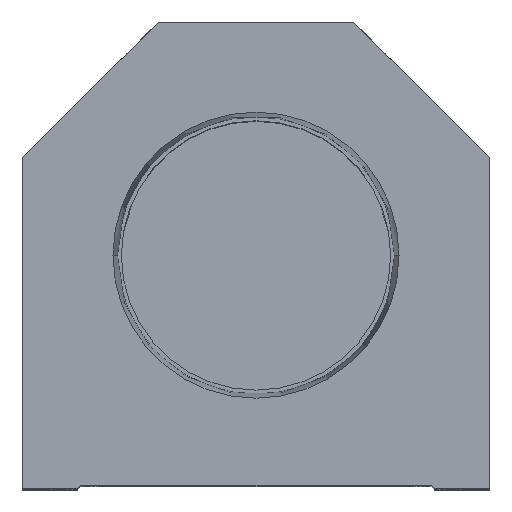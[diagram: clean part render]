
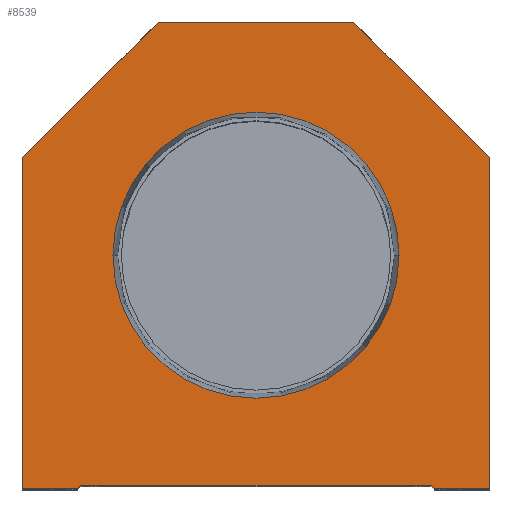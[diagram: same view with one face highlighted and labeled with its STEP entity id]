
A CAD part, top view. The second image highlights one B-rep face of the part: STEP entity #8539.
In plain terms, the highlighted planar face has unit normal (0, 0, 1).
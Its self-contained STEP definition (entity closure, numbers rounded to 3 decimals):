
#105 = CARTESIAN_POINT ( 'NONE',  ( 38.1, 54.1, 0. ) ) ;
#286 = LINE ( 'NONE', #19219, #20315 ) ;
#290 = LINE ( 'NONE', #3547, #4134 ) ;
#910 = VERTEX_POINT ( 'NONE', #10446 ) ;
#1490 = AXIS2_PLACEMENT_3D ( 'NONE', #6778, #14368, #3590 ) ;
#1512 = LINE ( 'NONE', #7694, #13969 ) ;
#1563 = DIRECTION ( 'NONE',  ( 1., 0., 0. ) ) ;
#1658 = VERTEX_POINT ( 'NONE', #16843 ) ;
#1663 = EDGE_CURVE ( 'NONE', #9354, #2318, #11237, .T. ) ;
#1797 = CARTESIAN_POINT ( 'NONE',  ( 16., 76.2, 0. ) ) ;
#1896 = DIRECTION ( 'NONE',  ( -1., 0., 0. ) ) ;
#1946 = CARTESIAN_POINT ( 'NONE',  ( -28.6, 0., 0. ) ) ;
#1997 = EDGE_CURVE ( 'NONE', #7896, #16456, #10984, .T. ) ;
#2183 = CARTESIAN_POINT ( 'NONE',  ( -38.1, 54.1, 0. ) ) ;
#2238 = VECTOR ( 'NONE', #15986, 1000. ) ;
#2318 = VERTEX_POINT ( 'NONE', #9732 ) ;
#2497 = VERTEX_POINT ( 'NONE', #14657 ) ;
#2987 = CARTESIAN_POINT ( 'NONE',  ( 0., 38.1, 0. ) ) ;
#3371 = EDGE_CURVE ( 'NONE', #5521, #6860, #15912, .T. ) ;
#3463 = LINE ( 'NONE', #105, #6415 ) ;
#3547 = CARTESIAN_POINT ( 'NONE',  ( 14.55, 14.55, 0. ) ) ;
#3590 = DIRECTION ( 'NONE',  ( 1., 0., 0. ) ) ;
#3665 = DIRECTION ( 'NONE',  ( -0.707, 0.707, 0. ) ) ;
#3694 = PLANE ( 'NONE',  #1490 ) ;
#3839 = DIRECTION ( 'NONE',  ( 1., 0., 0. ) ) ;
#3967 = DIRECTION ( 'NONE',  ( 1., 0., 0. ) ) ;
#4104 = CARTESIAN_POINT ( 'NONE',  ( -28.6, 0.5, 0. ) ) ;
#4134 = VECTOR ( 'NONE', #4987, 1000. ) ;
#4386 = EDGE_CURVE ( 'NONE', #910, #2497, #14209, .T. ) ;
#4857 = DIRECTION ( 'NONE',  ( 1., 0., 0. ) ) ;
#4987 = DIRECTION ( 'NONE',  ( 0.707, -0.707, 0. ) ) ;
#4998 = VECTOR ( 'NONE', #17952, 1000. ) ;
#5032 = ORIENTED_EDGE ( 'NONE', *, *, #1663, .F. ) ;
#5497 = CARTESIAN_POINT ( 'NONE',  ( -16., 76.2, 0. ) ) ;
#5521 = VERTEX_POINT ( 'NONE', #5526 ) ;
#5526 = CARTESIAN_POINT ( 'NONE',  ( 16., 76.2, 0. ) ) ;
#6330 = EDGE_CURVE ( 'NONE', #6860, #7896, #16207, .T. ) ;
#6415 = VECTOR ( 'NONE', #3665, 1000. ) ;
#6775 = ORIENTED_EDGE ( 'NONE', *, *, #3371, .T. ) ;
#6778 = CARTESIAN_POINT ( 'NONE',  ( 0., 0., 0. ) ) ;
#6860 = VERTEX_POINT ( 'NONE', #5497 ) ;
#7694 = CARTESIAN_POINT ( 'NONE',  ( -14.55, 14.55, 0. ) ) ;
#7821 = DIRECTION ( 'NONE',  ( 0., 0., 1. ) ) ;
#7896 = VERTEX_POINT ( 'NONE', #11339 ) ;
#8003 = ORIENTED_EDGE ( 'NONE', *, *, #11176, .T. ) ;
#8539 = ADVANCED_FACE ( 'NONE', ( #19170, #16260 ), #3694, .T. ) ;
#9354 = VERTEX_POINT ( 'NONE', #9564 ) ;
#9564 = CARTESIAN_POINT ( 'NONE',  ( 23.374, 38.1, 0. ) ) ;
#9656 = DIRECTION ( 'NONE',  ( 0., -1., 0. ) ) ;
#9699 = CARTESIAN_POINT ( 'NONE',  ( 38.1, 0., 0. ) ) ;
#9732 = CARTESIAN_POINT ( 'NONE',  ( -23.374, 38.1, 0. ) ) ;
#9755 = VERTEX_POINT ( 'NONE', #4104 ) ;
#9781 = ORIENTED_EDGE ( 'NONE', *, *, #4386, .T. ) ;
#9821 = EDGE_LOOP ( 'NONE', ( #5032, #15368 ) ) ;
#9924 = EDGE_CURVE ( 'NONE', #2497, #5521, #3463, .T. ) ;
#10103 = EDGE_CURVE ( 'NONE', #9755, #17178, #286, .T. ) ;
#10446 = CARTESIAN_POINT ( 'NONE',  ( 38.1, 0., 0. ) ) ;
#10984 = LINE ( 'NONE', #11086, #17528 ) ;
#11086 = CARTESIAN_POINT ( 'NONE',  ( -38.1, 0., 0. ) ) ;
#11173 = ORIENTED_EDGE ( 'NONE', *, *, #9924, .T. ) ;
#11176 = EDGE_CURVE ( 'NONE', #16456, #16189, #13066, .T. ) ;
#11237 = CIRCLE ( 'NONE', #16546, 23.374 ) ;
#11339 = CARTESIAN_POINT ( 'NONE',  ( -38.1, 54.1, 0. ) ) ;
#11341 = DIRECTION ( 'NONE',  ( -0.707, -0.707, 0. ) ) ;
#11770 = CARTESIAN_POINT ( 'NONE',  ( 0., 38.1, 0. ) ) ;
#12857 = AXIS2_PLACEMENT_3D ( 'NONE', #2987, #7821, #4857 ) ;
#13066 = LINE ( 'NONE', #1946, #17343 ) ;
#13441 = CARTESIAN_POINT ( 'NONE',  ( -38.1, 0., 0. ) ) ;
#13553 = ORIENTED_EDGE ( 'NONE', *, *, #17908, .T. ) ;
#13763 = VECTOR ( 'NONE', #11341, 1000. ) ;
#13969 = VECTOR ( 'NONE', #15427, 1000. ) ;
#14209 = LINE ( 'NONE', #9699, #2238 ) ;
#14368 = DIRECTION ( 'NONE',  ( 0., 0., 1. ) ) ;
#14540 = EDGE_CURVE ( 'NONE', #1658, #910, #17732, .T. ) ;
#14657 = CARTESIAN_POINT ( 'NONE',  ( 38.1, 54.1, 0. ) ) ;
#14795 = CARTESIAN_POINT ( 'NONE',  ( 28.6, 0., 0. ) ) ;
#15168 = EDGE_CURVE ( 'NONE', #2318, #9354, #19528, .T. ) ;
#15368 = ORIENTED_EDGE ( 'NONE', *, *, #15168, .F. ) ;
#15427 = DIRECTION ( 'NONE',  ( 0.707, 0.707, 0. ) ) ;
#15899 = ORIENTED_EDGE ( 'NONE', *, *, #1997, .T. ) ;
#15912 = LINE ( 'NONE', #1797, #18536 ) ;
#15986 = DIRECTION ( 'NONE',  ( 0., 1., 0. ) ) ;
#16189 = VERTEX_POINT ( 'NONE', #17979 ) ;
#16207 = LINE ( 'NONE', #2183, #13763 ) ;
#16260 = FACE_OUTER_BOUND ( 'NONE', #19163, .T. ) ;
#16456 = VERTEX_POINT ( 'NONE', #13441 ) ;
#16546 = AXIS2_PLACEMENT_3D ( 'NONE', #11770, #18099, #3967 ) ;
#16674 = CARTESIAN_POINT ( 'NONE',  ( 28.6, 0.5, 0. ) ) ;
#16843 = CARTESIAN_POINT ( 'NONE',  ( 29.1, 0., 0. ) ) ;
#16936 = ORIENTED_EDGE ( 'NONE', *, *, #6330, .T. ) ;
#17178 = VERTEX_POINT ( 'NONE', #16674 ) ;
#17276 = ORIENTED_EDGE ( 'NONE', *, *, #14540, .T. ) ;
#17343 = VECTOR ( 'NONE', #3839, 1000. ) ;
#17389 = EDGE_CURVE ( 'NONE', #17178, #1658, #290, .T. ) ;
#17528 = VECTOR ( 'NONE', #9656, 1000. ) ;
#17732 = LINE ( 'NONE', #14795, #4998 ) ;
#17908 = EDGE_CURVE ( 'NONE', #16189, #9755, #1512, .T. ) ;
#17952 = DIRECTION ( 'NONE',  ( 1., 0., 0. ) ) ;
#17979 = CARTESIAN_POINT ( 'NONE',  ( -29.1, 0., 0. ) ) ;
#18099 = DIRECTION ( 'NONE',  ( 0., 0., 1. ) ) ;
#18488 = ORIENTED_EDGE ( 'NONE', *, *, #17389, .T. ) ;
#18536 = VECTOR ( 'NONE', #1896, 1000. ) ;
#18747 = ORIENTED_EDGE ( 'NONE', *, *, #10103, .T. ) ;
#19163 = EDGE_LOOP ( 'NONE', ( #8003, #13553, #18747, #18488, #17276, #9781, #11173, #6775, #16936, #15899 ) ) ;
#19170 = FACE_BOUND ( 'NONE', #9821, .T. ) ;
#19219 = CARTESIAN_POINT ( 'NONE',  ( -28.6, 0.5, 0. ) ) ;
#19528 = CIRCLE ( 'NONE', #12857, 23.374 ) ;
#20315 = VECTOR ( 'NONE', #1563, 1000. ) ;
